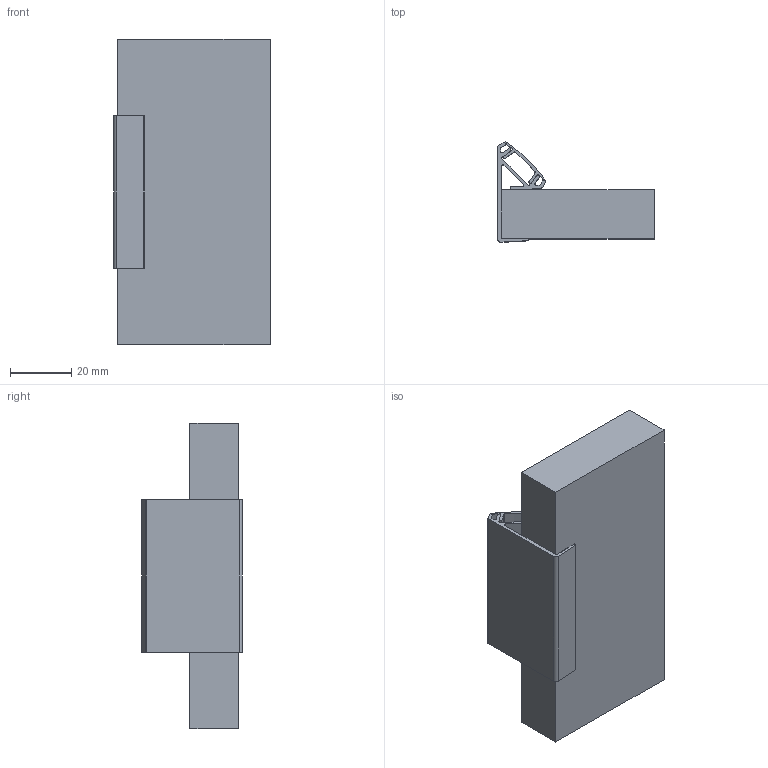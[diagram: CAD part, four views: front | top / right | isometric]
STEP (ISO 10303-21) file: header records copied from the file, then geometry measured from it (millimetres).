
FILE_DESCRIPTION(/* description */ (''),/* implementation_level */ '2;1');
FILE_NAME(/* name */ 'D:\$Workingspace\Designs\Profile\137 - Profil LED nakładany mały\MOOV pliki\pliki 3ds\PA-GLAXNBJ..M16-AL-KPL.stp',/* time_stamp */ '2018-01-16T14:27:28+01:00',/* author */ ('tomaszw'),/* organization */ (''),/* preprocessor_version */ 'ST-DEVELOPER v16.1',/* originating_system */ 'Autodesk Inventor 2016',/* authorisation */ '');
FILE_SCHEMA (('CONFIG_CONTROL_DESIGN'));
Length unit declared in the file: millimetre
Products named in the file (4): płyta mała 16; 120-profil led krawędziowy 18-05; Cover for LED Rails-07; PA-GLAXNBJ..M16-AL
Assembly tree (3 placements, depth 2):
  PA-GLAXNBJ..M16-AL
    płyta mała 16
    120-profil led krawędziowy 18-05
    Cover for LED Rails-07
Bounding box: 51.2 x 32.9 x 100 mm (x, y, z)
Volume: 85090.3 mm3; surface area: 24808.8 mm2
Topology: 3 solids, 3 shells, 114 faces, 324 edges, 216 vertices
Faces by surface type: plane 65, cylinder 49
Entity records: 3934 total; most frequent: DIRECTION 664, CARTESIAN_POINT 661, ORIENTED_EDGE 648, EDGE_CURVE 324, LINE 226, VECTOR 226, AXIS2_PLACEMENT_3D 219, VERTEX_POINT 216
